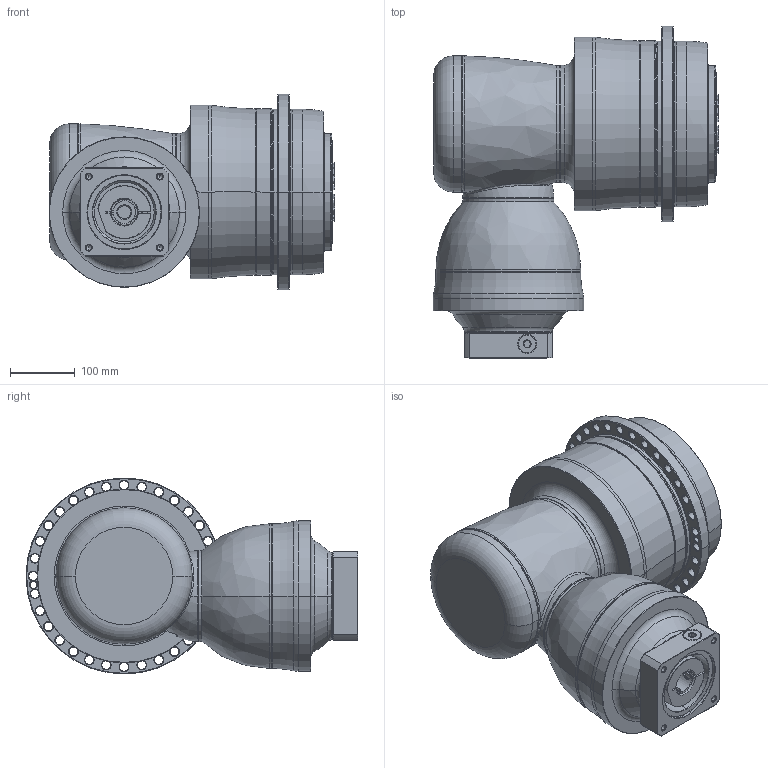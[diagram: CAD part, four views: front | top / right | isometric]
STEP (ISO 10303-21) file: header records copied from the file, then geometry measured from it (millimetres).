
FILE_DESCRIPTION((''),'2;1');
FILE_NAME('APCK255_4ST_35-P0409800201_ASM','2018-05-17T',('d01226'),(''),'PRO/ENGINEER BY PARAMETRIC TECHNOLOGY CORPORATION, 2008410','PRO/ENGINEER BY PARAMETRIC TECHNOLOGY CORPORATION, 2008410','');
FILE_SCHEMA(('CONFIG_CONTROL_DESIGN'));
Length unit declared in the file: millimetre
Products named in the file (13): P1008600002; P1832700001; P0278701003; P0359770103; P1211700001; P1315600001; P1007601001; P1317610301; P0409800201; P0503800012; P0912503001; 21711422019; APCK255_4ST_35-P0409800201_ASM
Assembly tree (12 placements, depth 2):
  APCK255_4ST_35-P0409800201_ASM
    P1008600002
    P1832700001
    P0278701003
    P0359770103
    P1211700001
    P1315600001
    P1007601001
    P1317610301
    P0409800201
    P0503800012
    P0912503001
    21711422019
Bounding box: 440.6 x 511.5 x 302 mm (x, y, z)
Volume: 24292632.8 mm3; surface area: 1423651.1 mm2
Topology: 13 solids, 25 shells, 817 faces, 1955 edges, 1188 vertices
Faces by surface type: cone 272, cylinder 241, plane 139, torus 128, bspline 35, sphere 2
Entity records: 31054 total; most frequent: CARTESIAN_POINT 11528, DIRECTION 4383, ORIENTED_EDGE 3832, EDGE_CURVE 1941, AXIS2_PLACEMENT_3D 1922, VERTEX_POINT 1188, CIRCLE 1103, EDGE_LOOP 939
